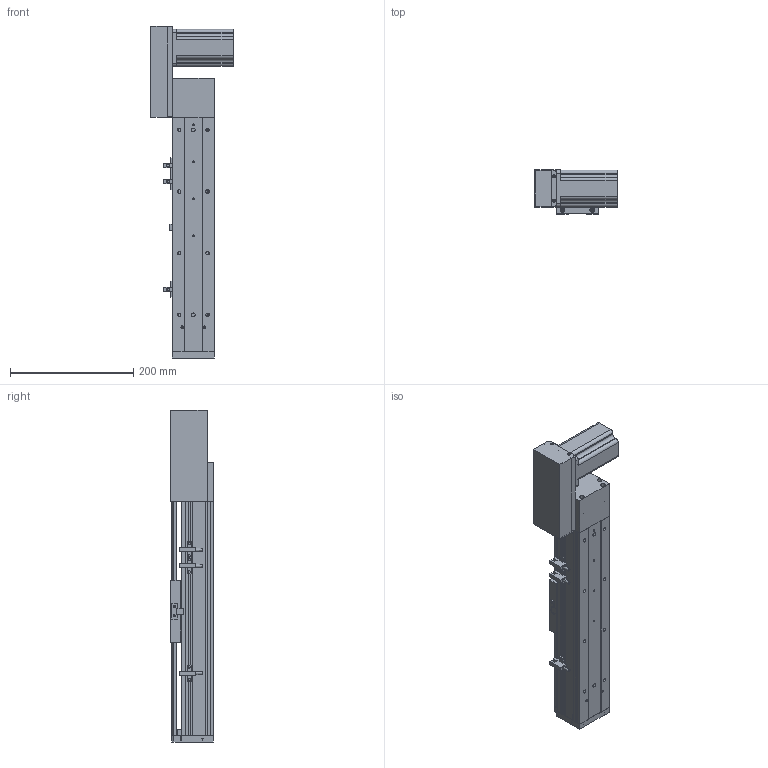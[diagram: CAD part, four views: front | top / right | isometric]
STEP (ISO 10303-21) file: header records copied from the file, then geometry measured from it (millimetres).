
FILE_DESCRIPTION (( 'STEP AP203' ), '1' );
FILE_NAME ('ML68-S200-CR.STEP', '2016-08-04T12:38:02', ( '' ), ( '' ), 'SwSTEP 2.0', 'SolidWorks 2014', '' );
FILE_SCHEMA (( 'CONFIG_CONTROL_DESIGN' ));
Length unit declared in the file: millimetre
Products named in the file (12): QS68左右折电机板罩子; 三协电机MH201N2_預設; 換覜ん; 60換覜結え; ML68奻裔^ML68-S200-CR; ML68滅鳥啣盓傅輸; ML68-BL傷啣; ML68-S200-CR; ML68傷啣; 葩璃 ML68菁釱^ML68-S200-CR; QS68酘衵殏萇儂啣; ML68雄赽釱
Assembly tree (13 placements, depth 2):
  ML68-S200-CR
    葩璃 ML68菁釱^ML68-S200-CR
    ML68奻裔^ML68-S200-CR
    ML68傷啣
    ML68-BL傷啣
    60換覜結え
    換覜ん  x3
    三协电机MH201N2_預設
    ML68雄赽釱
    QS68酘衵殏萇儂啣
    QS68左右折电机板罩子
    ML68滅鳥啣盓傅輸
Bounding box: 133.5 x 70.5 x 538.5 mm (x, y, z)
Volume: 1205325.6 mm3; surface area: 399361.6 mm2
Topology: 13 solids, 13 shells, 851 faces, 2326 edges, 1473 vertices
Faces by surface type: cylinder 382, plane 373, cone 96
Entity records: 26666 total; most frequent: CARTESIAN_POINT 4902, DIRECTION 4396, ORIENTED_EDGE 4152, EDGE_CURVE 2076, AXIS2_PLACEMENT_3D 1579, VERTEX_POINT 1361, LINE 1238, VECTOR 1238
